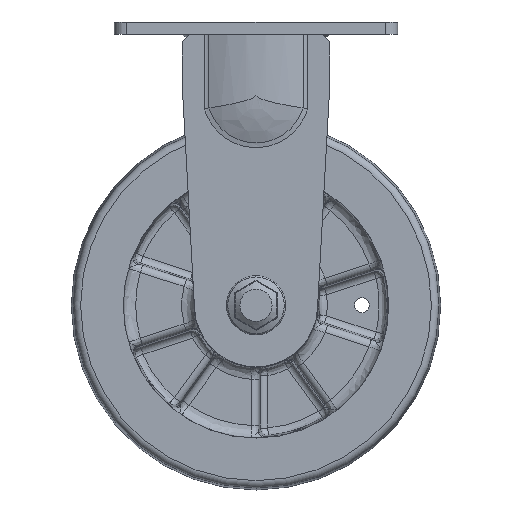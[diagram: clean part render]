
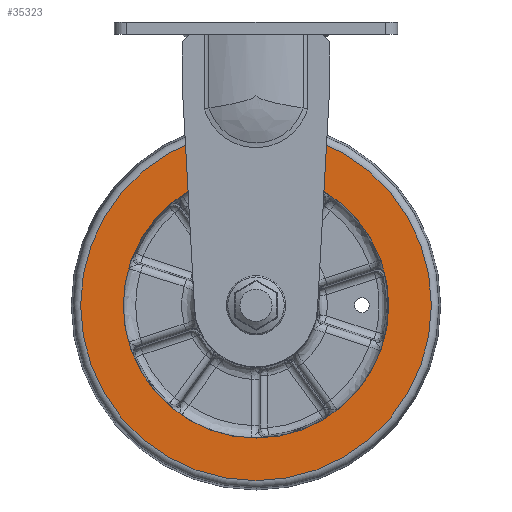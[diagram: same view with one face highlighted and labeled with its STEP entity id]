
A CAD part, front view. The second image highlights one B-rep face of the part: STEP entity #35323.
In plain terms, the highlighted planar face has unit normal (0, -1, 0).
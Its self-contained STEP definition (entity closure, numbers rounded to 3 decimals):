
#11301=CARTESIAN_POINT('',(-71.207,-20.,-112.5));
#11302=VERTEX_POINT('',#11301);
#11303=CARTESIAN_POINT('',(0.,-20.,-112.5));
#11304=DIRECTION('',(0.0,1.0,0.0));
#11305=DIRECTION('',(-1.0,0.0,0.0));
#11306=AXIS2_PLACEMENT_3D('',#11303,#11304,#11305);
#11307=CIRCLE('',#11306,71.207);
#11308=EDGE_CURVE('',#11302,#11302,#11307,.T.);
#26782=CARTESIAN_POINT('',(-53.9,-20.,-112.5));
#26783=VERTEX_POINT('',#26782);
#26784=CARTESIAN_POINT('',(0.,-20.,-112.5));
#26785=DIRECTION('',(0.0,1.0,0.0));
#26786=DIRECTION('',(-1.0,0.0,0.0));
#26787=AXIS2_PLACEMENT_3D('',#26784,#26785,#26786);
#26788=CIRCLE('',#26787,53.9);
#26789=EDGE_CURVE('',#26783,#26783,#26788,.T.);
#35312=CARTESIAN_POINT('',(-57.1,-20.,-112.5));
#35313=DIRECTION('',(0.0,-1.0,0.0));
#35314=DIRECTION('',(0.0,0.0,-1.0));
#35315=AXIS2_PLACEMENT_3D('',#35312,#35313,#35314);
#35316=PLANE('',#35315);
#35317=ORIENTED_EDGE('',*,*,#11308,.F.);
#35318=EDGE_LOOP('',(#35317));
#35319=FACE_OUTER_BOUND('',#35318,.T.);
#35320=ORIENTED_EDGE('',*,*,#26789,.T.);
#35321=EDGE_LOOP('',(#35320));
#35322=FACE_BOUND('',#35321,.T.);
#35323=ADVANCED_FACE('',(#35319,#35322),#35316,.T.);
